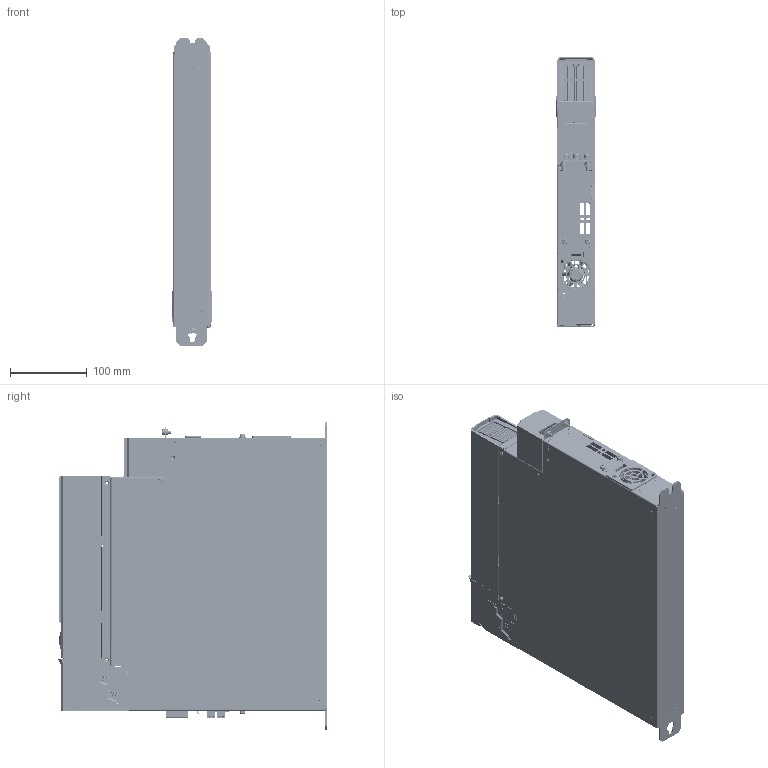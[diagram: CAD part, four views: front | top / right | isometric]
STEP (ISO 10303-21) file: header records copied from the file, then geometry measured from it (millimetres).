
FILE_DESCRIPTION((''),'2;1');
FILE_NAME('GD600A-51-7R5-4_ASM','2025-02-08T15:40:15',('Administrator'),(''),'CREO PARAMETRIC BY PTC INC, 2019080','CREO PARAMETRIC BY PTC INC, 2019080','');
FILE_SCHEMA(('CONFIG_CONTROL_DESIGN','SHAPE_APPEARANCE_LAYERS_GROUPS'));
Products named in the file (93): 80311055; S-M4-ZC; S-M3-ZC; BSO-3D5M3-8-ZC-INVALID; 80311055_ASM; 80311055SY; 80311055SY_ASM; 803812266; TPS-3-16; 803812266_ASM; 80385000; 80385001; GB12617_4_3X6_SL; 61063299_ASM; 61063300_ASM; 86052917; BSO-3D5M3-8-ZC; 86052917_ASM; 86052917SY; 86052917SY_ASM; 86051218; 86051218_ASM; 86051218SY; 86051218SY_ASM; 86051216; 41060303_ASM; BREP_WITH_VOIDS_93CNNT; MANIFOLD_SOLID_BREP_1837; MANIFOLD_SOLID_BREP_1838; MANIFOLD_SOLID_BREP_1839; M4_SPRING_2_PRT_1; M5_NUT_1_PRT_1-1841; M5_NUT_1_PRT_1-1842; M4_NUT_1_PRT_1; TD40-01-T3-C_GASKET_7_PRT_-1844; TD40-01-C_SPRING_WASHER_1_-1845; TD40-01-C_SCREW_1_PRT_1-1846; TD40-01-C_SCREW_1_PRT_1-1847; TD40-01-T3-C_GASKET_7_PRT_-1848; TD40-01-C_SPRING_WASHER_1_-1849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
Assembly tree (182 placements, depth 7):
  GD600A-51-7R5-4_ASM
    41060303_ASM
      61063300_ASM
        61063299_ASM
          80311055SY_ASM
            80311055_ASM
              80311055
              S-M4-ZC  x6
              S-M3-ZC  x5
              BSO-3D5M3-8-ZC-INVALID  x9
            80311055SY
          803812266_ASM
            803812266
            S-M3-ZC
            TPS-3-16  x2
          80385000
          80385001
          GB12617_4_3X6_SL  x16
      86052917SY_ASM
        86052917_ASM
          86052917
          BSO-3D5M3-8-ZC  x8
          S-M3-ZC  x2
        86052917SY
      86051218SY_ASM
        86051218_ASM
          86051218
          S-M3-ZC  x4
        86051218SY
      86051216  x2
    ES_ASM
      DSTB50-CNNT_ASM
        DSTB50-CNNT_STP_ASM
          BREP_WITH_VOIDS_93CNNT
          MANIFOLD_SOLID_BREP_1837
          MANIFOLD_SOLID_BREP_1838
          MANIFOLD_SOLID_BREP_1839
          M4_SPRING_2_PRT_1
          M5_NUT_1_PRT_1-1841
          M5_NUT_1_PRT_1-1842
          M4_NUT_1_PRT_1
          TD40-01-T3-C_GASKET_7_PRT_-1844
          TD40-01-C_SPRING_WASHER_1_-1845
          TD40-01-C_SCREW_1_PRT_1-1846
          TD40-01-C_SCREW_1_PRT_1-1847
          TD40-01-T3-C_GASKET_7_PRT_-1848
          TD40-01-C_SPRING_WASHER_1_-1849
          TD40-01-C_SCREW_1_PRT_1-1850
          TD40-01-C_SPRING_WASHER_1_-1851
          TD40-01-T3-C_GASKET_7_PRT_-1852
          MANIFOLD_SOLID_BREP_1853
      E-DIN0102-5_08MM-TM  x2
      F6A-5_08-02P-1-5-T04_ASM  x2
      17003-02676_ASM
        E-LEDR12-100-2-A
        E-LEDR10-100-2
        E-SR0603  x8
        E-SC0603  x4
        E-SC1206  x2
        E-SL1210
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Bounding box: 52.7 x 350.5 x 400 mm (x, y, z)
Volume: 582254.4 mm3; surface area: 834072.6 mm2
Topology: 163 solids, 256 shells, 18328 faces, 45727 edges, 28319 vertices
Faces by surface type: plane 9763, cylinder 3520, bspline 3374, cone 863, torus 545, sphere 207, extrusion 56
Entity records: 620765 total; most frequent: CARTESIAN_POINT 219267, ORIENTED_EDGE 73875, DIRECTION 62060, EDGE_CURVE 36974, VECTOR 22734, VERTEX_POINT 22725, LINE 22678, AXIS2_PLACEMENT_3D 19663
